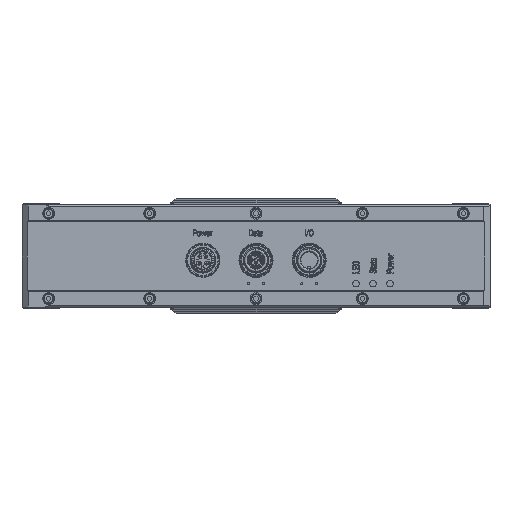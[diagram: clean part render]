
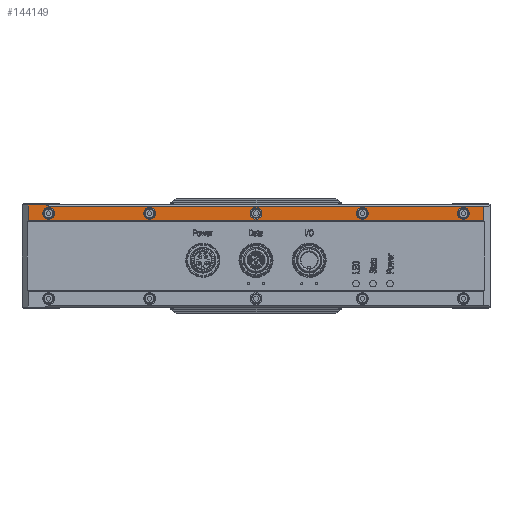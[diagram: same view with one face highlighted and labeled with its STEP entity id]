
A CAD part, front view. The second image highlights one B-rep face of the part: STEP entity #144149.
In plain terms, the highlighted planar face has unit normal (0, -1, 0).
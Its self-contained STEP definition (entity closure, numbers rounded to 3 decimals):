
#37122=DIRECTION('',(1.,0.,0.));
#37123=VECTOR('',#37122,204.5);
#37124=CARTESIAN_POINT('',(12.5,-11.,-0.5));
#37125=LINE('',#37124,#37123);
#37126=CARTESIAN_POINT('',(11.,-11.,0.));
#37127=CARTESIAN_POINT('',(11.049,-11.,-0.029));
#37128=CARTESIAN_POINT('',(11.143,-11.,-0.084));
#37129=CARTESIAN_POINT('',(11.276,-11.,-0.156));
#37130=CARTESIAN_POINT('',(11.403,-11.,-0.22));
#37131=CARTESIAN_POINT('',(11.515,-11.,-0.271));
#37132=CARTESIAN_POINT('',(11.648,-11.,-0.327));
#37133=CARTESIAN_POINT('',(11.765,-11.,-0.37));
#37134=CARTESIAN_POINT('',(11.88,-11.,-0.407));
#37135=CARTESIAN_POINT('',(11.988,-11.,-0.436));
#37136=CARTESIAN_POINT('',(12.091,-11.,-0.46));
#37137=CARTESIAN_POINT('',(12.196,-11.,-0.478));
#37138=CARTESIAN_POINT('',(12.298,-11.,-0.491));
#37139=CARTESIAN_POINT('',(12.4,-11.,-0.498));
#37140=CARTESIAN_POINT('',(12.467,-11.,-0.5));
#37141=CARTESIAN_POINT('',(12.5,-11.,-0.5));
#37143=DIRECTION('',(0.,0.,1.));
#37144=VECTOR('',#37143,7.);
#37145=CARTESIAN_POINT('',(217.,-11.,-7.5));
#37146=LINE('',#37145,#37144);
#37147=DIRECTION('',(1.,0.,0.));
#37148=VECTOR('',#37147,214.);
#37149=CARTESIAN_POINT('',(3.,-11.,-7.5));
#37150=LINE('',#37149,#37148);
#37151=DIRECTION('',(0.,0.,-1.));
#37152=VECTOR('',#37151,7.5);
#37153=CARTESIAN_POINT('',(3.,-11.,0.));
#37154=LINE('',#37153,#37152);
#37155=CARTESIAN_POINT('',(207.5,-11.,-4.));
#37156=DIRECTION('',(0.,1.,0.));
#37157=DIRECTION('',(1.,0.,0.));
#37158=AXIS2_PLACEMENT_3D('',#37155,#37156,#37157);
#37160=CARTESIAN_POINT('',(207.5,-11.,-4.));
#37161=DIRECTION('',(0.,1.,0.));
#37162=DIRECTION('',(-1.,0.,0.));
#37163=AXIS2_PLACEMENT_3D('',#37160,#37161,#37162);
#37165=CARTESIAN_POINT('',(160.,-11.,-4.));
#37166=DIRECTION('',(0.,1.,0.));
#37167=DIRECTION('',(1.,0.,0.));
#37168=AXIS2_PLACEMENT_3D('',#37165,#37166,#37167);
#37170=CARTESIAN_POINT('',(160.,-11.,-4.));
#37171=DIRECTION('',(0.,1.,0.));
#37172=DIRECTION('',(-1.,0.,0.));
#37173=AXIS2_PLACEMENT_3D('',#37170,#37171,#37172);
#37175=CARTESIAN_POINT('',(110.,-11.,-4.));
#37176=DIRECTION('',(0.,1.,0.));
#37177=DIRECTION('',(1.,0.,0.));
#37178=AXIS2_PLACEMENT_3D('',#37175,#37176,#37177);
#37180=CARTESIAN_POINT('',(110.,-11.,-4.));
#37181=DIRECTION('',(0.,1.,0.));
#37182=DIRECTION('',(-1.,0.,0.));
#37183=AXIS2_PLACEMENT_3D('',#37180,#37181,#37182);
#37185=CARTESIAN_POINT('',(60.,-11.,-4.));
#37186=DIRECTION('',(0.,1.,0.));
#37187=DIRECTION('',(1.,0.,0.));
#37188=AXIS2_PLACEMENT_3D('',#37185,#37186,#37187);
#37190=CARTESIAN_POINT('',(60.,-11.,-4.));
#37191=DIRECTION('',(0.,1.,0.));
#37192=DIRECTION('',(-1.,0.,0.));
#37193=AXIS2_PLACEMENT_3D('',#37190,#37191,#37192);
#37195=CARTESIAN_POINT('',(12.5,-11.,-4.));
#37196=DIRECTION('',(0.,1.,0.));
#37197=DIRECTION('',(1.,0.,0.));
#37198=AXIS2_PLACEMENT_3D('',#37195,#37196,#37197);
#37200=CARTESIAN_POINT('',(12.5,-11.,-4.));
#37201=DIRECTION('',(0.,1.,0.));
#37202=DIRECTION('',(-1.,0.,0.));
#37203=AXIS2_PLACEMENT_3D('',#37200,#37201,#37202);
#37752=DIRECTION('',(1.,0.,0.));
#37753=VECTOR('',#37752,8.);
#37754=CARTESIAN_POINT('',(3.,-11.,0.));
#37755=LINE('',#37754,#37753);
#82727=CARTESIAN_POINT('',(3.,-11.,-7.5));
#82729=VERTEX_POINT('',#82727);
#82731=CARTESIAN_POINT('',(3.,-11.,0.));
#82732=VERTEX_POINT('',#82731);
#82735=CARTESIAN_POINT('',(217.,-11.,-7.5));
#82737=VERTEX_POINT('',#82735);
#82741=CARTESIAN_POINT('',(217.,-11.,
-0.5));
#82742=VERTEX_POINT('',#82741);
#83987=VERTEX_POINT('',#37126);
#83988=VERTEX_POINT('',#37141);
#88482=CARTESIAN_POINT('',(204.75,-11.,-4.));
#88484=VERTEX_POINT('',#88482);
#88485=CARTESIAN_POINT('',(210.25,-11.,-4.));
#88486=VERTEX_POINT('',#88485);
#88501=CARTESIAN_POINT('',(157.25,-11.,-4.));
#88503=VERTEX_POINT('',#88501);
#88504=CARTESIAN_POINT('',(162.75,-11.,-4.));
#88505=VERTEX_POINT('',#88504);
#88520=CARTESIAN_POINT('',(107.25,-11.,-4.));
#88522=VERTEX_POINT('',#88520);
#88523=CARTESIAN_POINT('',(112.75,-11.,-4.));
#88524=VERTEX_POINT('',#88523);
#88539=CARTESIAN_POINT('',(57.25,-11.,-4.));
#88541=VERTEX_POINT('',#88539);
#88542=CARTESIAN_POINT('',(62.75,-11.,-4.));
#88543=VERTEX_POINT('',#88542);
#88558=CARTESIAN_POINT('',(9.75,-11.,-4.));
#88560=VERTEX_POINT('',#88558);
#88561=CARTESIAN_POINT('',(15.25,-11.,-4.));
#88562=VERTEX_POINT('',#88561);
#144104=CARTESIAN_POINT('',(110.,-11.,-3.75));
#144105=DIRECTION('',(0.,1.,0.));
#144106=DIRECTION('',(-1.,0.,0.));
#144107=AXIS2_PLACEMENT_3D('',#144104,#144105,#144106);
#144108=PLANE('',#144107);
#144109=ORIENTED_EDGE('',*,*,#144090,.T.);
#144110=ORIENTED_EDGE('',*,*,#144073,.T.);
#144111=ORIENTED_EDGE('',*,*,#101250,.F.);
#144112=ORIENTED_EDGE('',*,*,#101225,.F.);
#144114=ORIENTED_EDGE('',*,*,#144113,.F.);
#144116=ORIENTED_EDGE('',*,*,#144115,.T.);
#144117=EDGE_LOOP('',(#144109,#144110,#144111,#144112,#144114,#144116));
#144118=FACE_OUTER_BOUND('',#144117,.F.);
#144120=ORIENTED_EDGE('',*,*,#144119,.F.);
#144122=ORIENTED_EDGE('',*,*,#144121,.F.);
#144123=EDGE_LOOP('',(#144120,#144122));
#144124=FACE_BOUND('',#144123,.F.);
#144126=ORIENTED_EDGE('',*,*,#144125,.F.);
#144128=ORIENTED_EDGE('',*,*,#144127,.F.);
#144129=EDGE_LOOP('',(#144126,#144128));
#144130=FACE_BOUND('',#144129,.F.);
#144132=ORIENTED_EDGE('',*,*,#144131,.F.);
#144134=ORIENTED_EDGE('',*,*,#144133,.F.);
#144135=EDGE_LOOP('',(#144132,#144134));
#144136=FACE_BOUND('',#144135,.F.);
#144138=ORIENTED_EDGE('',*,*,#144137,.F.);
#144140=ORIENTED_EDGE('',*,*,#144139,.F.);
#144141=EDGE_LOOP('',(#144138,#144140));
#144142=FACE_BOUND('',#144141,.F.);
#144144=ORIENTED_EDGE('',*,*,#144143,.F.);
#144146=ORIENTED_EDGE('',*,*,#144145,.F.);
#144147=EDGE_LOOP('',(#144144,#144146));
#144148=FACE_BOUND('',#144147,.F.);
#37142=B_SPLINE_CURVE_WITH_KNOTS('',3,(#37126,#37127,#37128,#37129,#37130,
#37131,#37132,#37133,#37134,#37135,#37136,#37137,#37138,#37139,#37140,#37141),
.UNSPECIFIED.,.F.,.F.,(4,1,1,1,1,1,1,1,1,1,1,1,1,4),(0.,0.077,
0.154,0.231,0.308,0.385,
0.462,0.538,0.615,0.692,
0.769,0.846,0.923,1.),.UNSPECIFIED.);
#37159=CIRCLE('',#37158,2.75);
#37164=CIRCLE('',#37163,2.75);
#37169=CIRCLE('',#37168,2.75);
#37174=CIRCLE('',#37173,2.75);
#37179=CIRCLE('',#37178,2.75);
#37184=CIRCLE('',#37183,2.75);
#37189=CIRCLE('',#37188,2.75);
#37194=CIRCLE('',#37193,2.75);
#37199=CIRCLE('',#37198,2.75);
#37204=CIRCLE('',#37203,2.75);
#101225=EDGE_CURVE('',#82729,#82737,#37150,.T.);
#101250=EDGE_CURVE('',#82737,#82742,#37146,.T.);
#144073=EDGE_CURVE('',#83988,#82742,#37125,.T.);
#144090=EDGE_CURVE('',#83987,#83988,#37142,.T.);
#144113=EDGE_CURVE('',#82732,#82729,#37154,.T.);
#144115=EDGE_CURVE('',#82732,#83987,#37755,.T.);
#144119=EDGE_CURVE('',#88486,#88484,#37159,.T.);
#144121=EDGE_CURVE('',#88484,#88486,#37164,.T.);
#144125=EDGE_CURVE('',#88505,#88503,#37169,.T.);
#144127=EDGE_CURVE('',#88503,#88505,#37174,.T.);
#144131=EDGE_CURVE('',#88524,#88522,#37179,.T.);
#144133=EDGE_CURVE('',#88522,#88524,#37184,.T.);
#144137=EDGE_CURVE('',#88543,#88541,#37189,.T.);
#144139=EDGE_CURVE('',#88541,#88543,#37194,.T.);
#144143=EDGE_CURVE('',#88562,#88560,#37199,.T.);
#144145=EDGE_CURVE('',#88560,#88562,#37204,.T.);
#144149=ADVANCED_FACE('',(#144118,#144124,#144130,#144136,#144142,#144148),
#144108,.F.);
